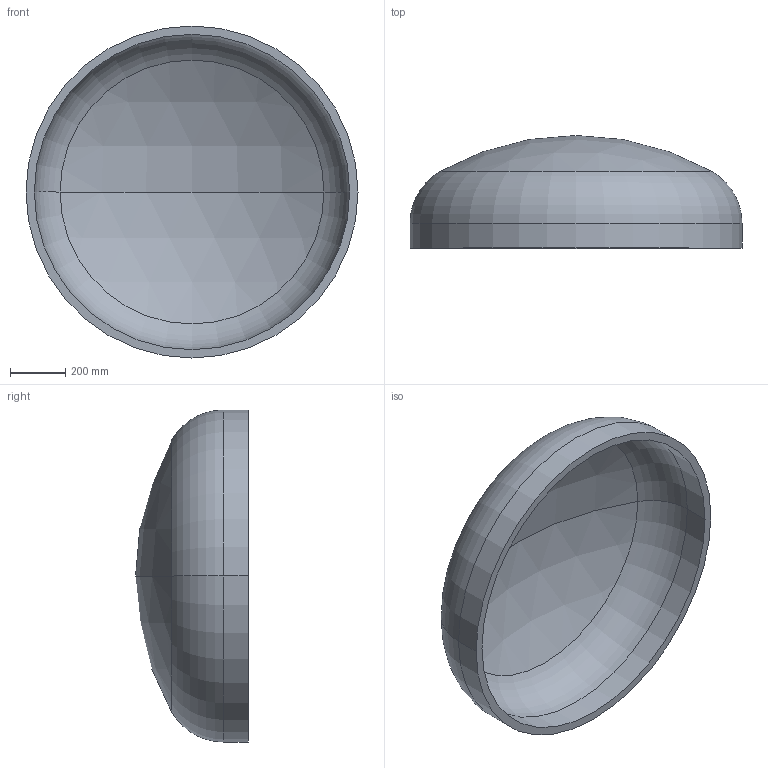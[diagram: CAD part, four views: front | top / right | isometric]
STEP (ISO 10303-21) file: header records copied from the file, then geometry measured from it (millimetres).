
FILE_DESCRIPTION (( 'STEP AP203' ), '1' );
FILE_NAME ('DIN 28013 Korbbogenform_-_Boden DIN 28013 - 1200 x 90 - I - s=30.step', '2016-07-01T09:25:41', ( '' ), ( '' ), 'SwSTEP 2.0', 'SolidWorks 2013', '' );
FILE_SCHEMA (( 'CONFIG_CONTROL_DESIGN' ));
Length unit declared in the file: millimetre
Products named in the file (1): DIN 28013 Korbbogenform_-_Boden DIN 28013 - 1200 x 90 - I - s=30
Bounding box: 1200 x 407.39 x 1200 mm (x, y, z)
Volume: 55409689.7 mm3; surface area: 3806133.1 mm2
Topology: 1 solids, 1 shells, 13 faces, 24 edges, 14 vertices
Faces by surface type: torus 4, cylinder 4, sphere 4, plane 1
Entity records: 407 total; most frequent: DIRECTION 72, CARTESIAN_POINT 52, ORIENTED_EDGE 48, AXIS2_PLACEMENT_3D 34, EDGE_CURVE 24, CIRCLE 20, VERTEX_POINT 14, EDGE_LOOP 14
